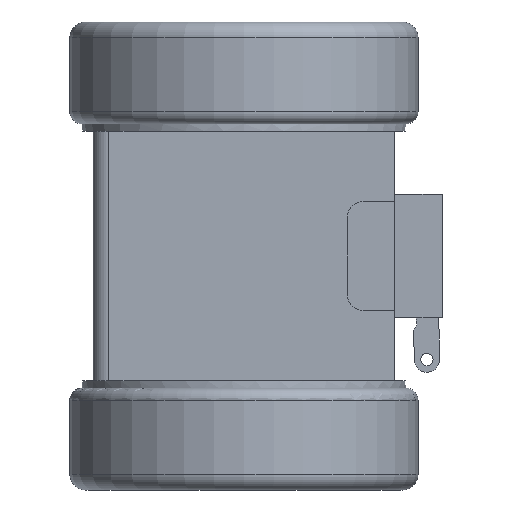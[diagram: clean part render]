
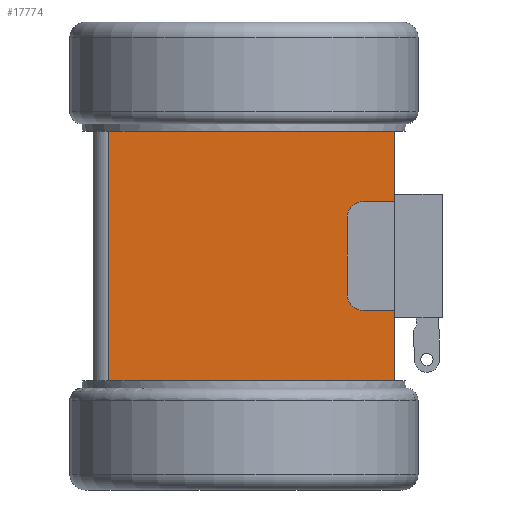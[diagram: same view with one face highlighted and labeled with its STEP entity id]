
A CAD part, left-side view. The second image highlights one B-rep face of the part: STEP entity #17774.
In plain terms, the highlighted planar face has unit normal (-1, 0, 0).
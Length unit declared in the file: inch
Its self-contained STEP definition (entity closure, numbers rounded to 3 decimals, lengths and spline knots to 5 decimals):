
#4102 = ORIENTED_EDGE ( 'NONE', *, *, #20202, .F. ) ;
#4134 = ORIENTED_EDGE ( 'NONE', *, *, #20187, .T. ) ;
#4139 = ORIENTED_EDGE ( 'NONE', *, *, #28092, .F. ) ;
#4147 = ORIENTED_EDGE ( 'NONE', *, *, #20210, .F. ) ;
#4149 = ORIENTED_EDGE ( 'NONE', *, *, #20206, .F. ) ;
#4150 = ORIENTED_EDGE ( 'NONE', *, *, #20203, .F. ) ;
#4153 = ORIENTED_EDGE ( 'NONE', *, *, #20211, .F. ) ;
#4156 = ORIENTED_EDGE ( 'NONE', *, *, #20200, .T. ) ;
#4159 = ORIENTED_EDGE ( 'NONE', *, *, #20208, .F. ) ;
#4163 = ORIENTED_EDGE ( 'NONE', *, *, #20189, .T. ) ;
#4165 = ORIENTED_EDGE ( 'NONE', *, *, #20209, .T. ) ;
#4167 = ORIENTED_EDGE ( 'NONE', *, *, #20207, .T. ) ;
#4172 = ORIENTED_EDGE ( 'NONE', *, *, #20193, .T. ) ;
#4177 = ORIENTED_EDGE ( 'NONE', *, *, #20204, .F. ) ;
#4181 = ORIENTED_EDGE ( 'NONE', *, *, #6531, .F. ) ;
#4184 = ORIENTED_EDGE ( 'NONE', *, *, #20205, .F. ) ;
#6531 = EDGE_CURVE ( 'NONE', #10608, #10553, #13119, .T. ) ;
#8079 = EDGE_LOOP ( 'NONE', ( #4102, #4150, #4177, #4184, #4149, #4167, #4181, #4172, #4159, #4156, #4165, #4163, #4147, #4134, #4139, #4153 ) ) ;
#9435 = FACE_OUTER_BOUND ( 'NONE', #8079, .T. ) ;
#10133 = DIRECTION ( 'NONE',  ( 0., -1., 0. ) ) ;
#10136 = CARTESIAN_POINT ( 'NONE',  ( -2.382, 2.382, -1.974 ) ) ;
#10137 = CARTESIAN_POINT ( 'NONE',  ( -2.382, 2.382, -1.974 ) ) ;
#10138 = DIRECTION ( 'NONE',  ( 0., -1., 0. ) ) ;
#10145 = CARTESIAN_POINT ( 'NONE',  ( -2.382, -2.382, 1.974 ) ) ;
#10146 = DIRECTION ( 'NONE',  ( 0., 1., 0. ) ) ;
#10160 = CARTESIAN_POINT ( 'NONE',  ( -2.382, -2.382, -0.8575 ) ) ;
#10164 = DIRECTION ( 'NONE',  ( 0., 1., 0. ) ) ;
#10168 = DIRECTION ( 'NONE',  ( 0., -1., 0. ) ) ;
#10169 = CARTESIAN_POINT ( 'NONE',  ( -2.382, -2.382, 1.974 ) ) ;
#10176 = DIRECTION ( 'NONE',  ( 0., 0., -1. ) ) ;
#10177 = CARTESIAN_POINT ( 'NONE',  ( -2.382, -1.632, -0.6075 ) ) ;
#10178 = CARTESIAN_POINT ( 'NONE',  ( -2.382, -1.882, -0.6075 ) ) ;
#10179 = DIRECTION ( 'NONE',  ( -1., 0., 0. ) ) ;
#10180 = DIRECTION ( 'NONE',  ( 0., 0., -1. ) ) ;
#10181 = DIRECTION ( 'NONE',  ( 0., 1., 0. ) ) ;
#10182 = CARTESIAN_POINT ( 'NONE',  ( -2.382, -2.382, 1.974 ) ) ;
#10183 = CARTESIAN_POINT ( 'NONE',  ( -2.382, -2.382, -1.974 ) ) ;
#10184 = CARTESIAN_POINT ( 'NONE',  ( -2.382, -2.382, 0.8575 ) ) ;
#10185 = CARTESIAN_POINT ( 'NONE',  ( -2.382, -1.882, 0.6075 ) ) ;
#10186 = DIRECTION ( 'NONE',  ( -1., 0., 0. ) ) ;
#10187 = DIRECTION ( 'NONE',  ( 0., 0., -1. ) ) ;
#10188 = DIRECTION ( 'NONE',  ( 0., 0., 1. ) ) ;
#10189 = CARTESIAN_POINT ( 'NONE',  ( -2.382, 2.382, 1.974 ) ) ;
#10190 = DIRECTION ( 'NONE',  ( 0., -1., 0. ) ) ;
#10191 = CARTESIAN_POINT ( 'NONE',  ( -2.382, 2.132, -1.974 ) ) ;
#10192 = DIRECTION ( 'NONE',  ( 0., 0., -1. ) ) ;
#10193 = CARTESIAN_POINT ( 'NONE',  ( -2.382, 2.382, -1.974 ) ) ;
#10194 = DIRECTION ( 'NONE',  ( 0., 1., 0. ) ) ;
#10195 = DIRECTION ( 'NONE',  ( 0., 0., -1. ) ) ;
#10483 = VERTEX_POINT ( 'NONE', #21496 ) ;
#10538 = VERTEX_POINT ( 'NONE', #21551 ) ;
#10553 = VERTEX_POINT ( 'NONE', #21566 ) ;
#10554 = VERTEX_POINT ( 'NONE', #21567 ) ;
#10569 = VERTEX_POINT ( 'NONE', #21582 ) ;
#10608 = VERTEX_POINT ( 'NONE', #21621 ) ;
#10826 = VERTEX_POINT ( 'NONE', #15352 ) ;
#10828 = VERTEX_POINT ( 'NONE', #15354 ) ;
#10830 = VERTEX_POINT ( 'NONE', #15356 ) ;
#10833 = VERTEX_POINT ( 'NONE', #15359 ) ;
#10834 = VERTEX_POINT ( 'NONE', #15360 ) ;
#10835 = VERTEX_POINT ( 'NONE', #15361 ) ;
#10836 = VERTEX_POINT ( 'NONE', #15362 ) ;
#10837 = VERTEX_POINT ( 'NONE', #15363 ) ;
#10838 = VERTEX_POINT ( 'NONE', #15364 ) ;
#10839 = VERTEX_POINT ( 'NONE', #15365 ) ;
#13119 = LINE ( 'NONE', #16824, #13129 ) ;
#13129 = VECTOR ( 'NONE', #16835, 39.37008 ) ;
#15352 = CARTESIAN_POINT ( 'NONE',  ( -2.382, 0.92556, -1.974 ) ) ;
#15354 = CARTESIAN_POINT ( 'NONE',  ( -2.382, -0.92556, 1.974 ) ) ;
#15356 = CARTESIAN_POINT ( 'NONE',  ( -2.382, 2.132, 1.974 ) ) ;
#15359 = CARTESIAN_POINT ( 'NONE',  ( -2.382, -1.632, -0.6075 ) ) ;
#15360 = CARTESIAN_POINT ( 'NONE',  ( -2.382, 0.92556, 1.974 ) ) ;
#15361 = CARTESIAN_POINT ( 'NONE',  ( -2.382, -1.882, -0.8575 ) ) ;
#15362 = CARTESIAN_POINT ( 'NONE',  ( -2.382, -1.882, 0.8575 ) ) ;
#15363 = CARTESIAN_POINT ( 'NONE',  ( -2.382, -2.382, -0.8575 ) ) ;
#15364 = CARTESIAN_POINT ( 'NONE',  ( -2.382, -2.382, 0.8575 ) ) ;
#15365 = CARTESIAN_POINT ( 'NONE',  ( -2.382, -1.632, 0.6075 ) ) ;
#16824 = CARTESIAN_POINT ( 'NONE',  ( -2.382, -2.382, 1.974 ) ) ;
#16835 = DIRECTION ( 'NONE',  ( 0., 0., -1. ) ) ;
#17774 = ADVANCED_FACE ( 'NONE', ( #9435 ), #26412, .T. ) ;
#20187 = EDGE_CURVE ( 'NONE', #10483, #10554, #33259, .T. ) ;
#20189 = EDGE_CURVE ( 'NONE', #10569, #10826, #33263, .T. ) ;
#20193 = EDGE_CURVE ( 'NONE', #10608, #10828, #33268, .T. ) ;
#20200 = EDGE_CURVE ( 'NONE', #10834, #10830, #33274, .T. ) ;
#20202 = EDGE_CURVE ( 'NONE', #10835, #10837, #33281, .T. ) ;
#20203 = EDGE_CURVE ( 'NONE', #10833, #10835, #33278, .T. ) ;
#20204 = EDGE_CURVE ( 'NONE', #10839, #10833, #33282, .T. ) ;
#20205 = EDGE_CURVE ( 'NONE', #10836, #10839, #33284, .T. ) ;
#20206 = EDGE_CURVE ( 'NONE', #10838, #10836, #33285, .T. ) ;
#20207 = EDGE_CURVE ( 'NONE', #10838, #10553, #33287, .T. ) ;
#20208 = EDGE_CURVE ( 'NONE', #10834, #10828, #33290, .T. ) ;
#20209 = EDGE_CURVE ( 'NONE', #10830, #10569, #33292, .T. ) ;
#20210 = EDGE_CURVE ( 'NONE', #10483, #10826, #33294, .T. ) ;
#20211 = EDGE_CURVE ( 'NONE', #10837, #10538, #33288, .T. ) ;
#21070 = AXIS2_PLACEMENT_3D ( 'NONE', #26413, #26418, #26419 ) ;
#21230 = AXIS2_PLACEMENT_3D ( 'NONE', #10178, #10179, #10180 ) ;
#21231 = AXIS2_PLACEMENT_3D ( 'NONE', #10185, #10186, #10187 ) ;
#21496 = CARTESIAN_POINT ( 'NONE',  ( -2.382, -0.92556, -1.974 ) ) ;
#21551 = CARTESIAN_POINT ( 'NONE',  ( -2.382, -2.382, -0.975 ) ) ;
#21566 = CARTESIAN_POINT ( 'NONE',  ( -2.382, -2.382, 0.975 ) ) ;
#21567 = CARTESIAN_POINT ( 'NONE',  ( -2.382, -2.382, -1.974 ) ) ;
#21582 = CARTESIAN_POINT ( 'NONE',  ( -2.382, 2.132, -1.974 ) ) ;
#21621 = CARTESIAN_POINT ( 'NONE',  ( -2.382, -2.382, 1.974 ) ) ;
#26412 = PLANE ( 'NONE',  #21070 ) ;
#26413 = CARTESIAN_POINT ( 'NONE',  ( -2.382, 2.382, -1.974 ) ) ;
#26418 = DIRECTION ( 'NONE',  ( -1., 0., 0. ) ) ;
#26419 = DIRECTION ( 'NONE',  ( 0., 0., 1. ) ) ;
#28092 = EDGE_CURVE ( 'NONE', #10538, #10554, #29724, .T. ) ;
#28968 = CARTESIAN_POINT ( 'NONE',  ( -2.382, -2.382, 1.974 ) ) ;
#28969 = DIRECTION ( 'NONE',  ( 0., 0., -1. ) ) ;
#29724 = LINE ( 'NONE', #28968, #29727 ) ;
#29727 = VECTOR ( 'NONE', #28969, 39.37008 ) ;
#33259 = LINE ( 'NONE', #10136, #33262 ) ;
#33262 = VECTOR ( 'NONE', #10138, 39.37008 ) ;
#33263 = LINE ( 'NONE', #10137, #33265 ) ;
#33265 = VECTOR ( 'NONE', #10133, 39.37008 ) ;
#33268 = LINE ( 'NONE', #10145, #33270 ) ;
#33270 = VECTOR ( 'NONE', #10146, 39.37008 ) ;
#33274 = LINE ( 'NONE', #10169, #33280 ) ;
#33278 = CIRCLE ( 'NONE', #21230, 0.25 ) ;
#33280 = VECTOR ( 'NONE', #10164, 39.37008 ) ;
#33281 = LINE ( 'NONE', #10160, #33283 ) ;
#33282 = LINE ( 'NONE', #10177, #33286 ) ;
#33283 = VECTOR ( 'NONE', #10168, 39.37008 ) ;
#33284 = CIRCLE ( 'NONE', #21231, 0.25 ) ;
#33285 = LINE ( 'NONE', #10184, #33289 ) ;
#33286 = VECTOR ( 'NONE', #10176, 39.37008 ) ;
#33287 = LINE ( 'NONE', #10183, #33291 ) ;
#33288 = LINE ( 'NONE', #10182, #33299 ) ;
#33289 = VECTOR ( 'NONE', #10181, 39.37008 ) ;
#33290 = LINE ( 'NONE', #10189, #33293 ) ;
#33291 = VECTOR ( 'NONE', #10188, 39.37008 ) ;
#33292 = LINE ( 'NONE', #10191, #33295 ) ;
#33293 = VECTOR ( 'NONE', #10190, 39.37008 ) ;
#33294 = LINE ( 'NONE', #10193, #33297 ) ;
#33295 = VECTOR ( 'NONE', #10192, 39.37008 ) ;
#33297 = VECTOR ( 'NONE', #10194, 39.37008 ) ;
#33299 = VECTOR ( 'NONE', #10195, 39.37008 ) ;
